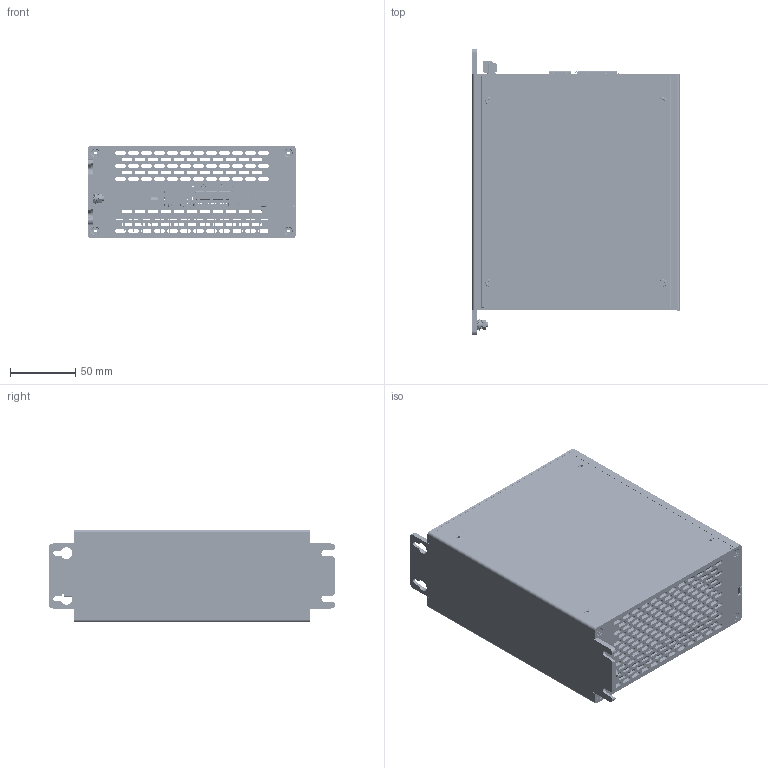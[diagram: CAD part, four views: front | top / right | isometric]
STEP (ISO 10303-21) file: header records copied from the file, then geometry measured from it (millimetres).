
FILE_DESCRIPTION((''),'2;1');
FILE_NAME('93663200_ASM','2019-09-19T',('androm'),(''),'PRO/ENGINEER BY PARAMETRIC TECHNOLOGY CORPORATION, 2013410','PRO/ENGINEER BY PARAMETRIC TECHNOLOGY CORPORATION, 2013410','');
FILE_SCHEMA(('AUTOMOTIVE_DESIGN { 1 0 10303 214 1 1 1 1 }'));
Products named in the file (1): 93663200_ASM
Bounding box: 159.6 x 220 x 71 mm (x, y, z)
Surface area: 351470.6 mm2 (no closed solid volume)
Topology: 0 solids, 537 shells, 5001 faces, 23042 edges, 18111 vertices
Faces by surface type: plane 3430, cylinder 1267, cone 142, bspline 80, torus 38, sphere 36, extrusion 8
Entity records: 260578 total; most frequent: CARTESIAN_POINT 53721, DIRECTION 37518, ORIENTED_EDGE 33628, EDGE_CURVE 22975, VERTEX_POINT 18111, VECTOR 16816, LINE 16808, AXIS2_PLACEMENT_3D 10351
